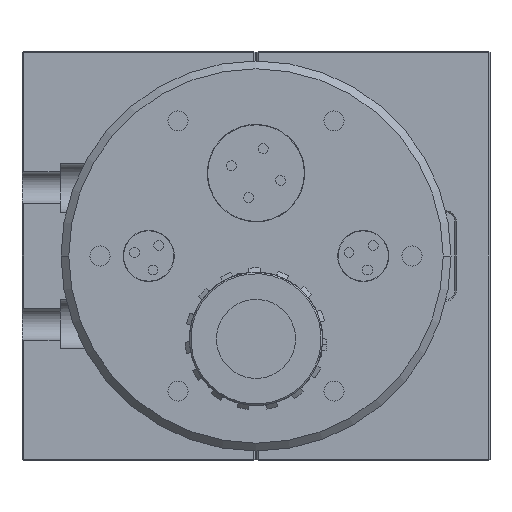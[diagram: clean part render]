
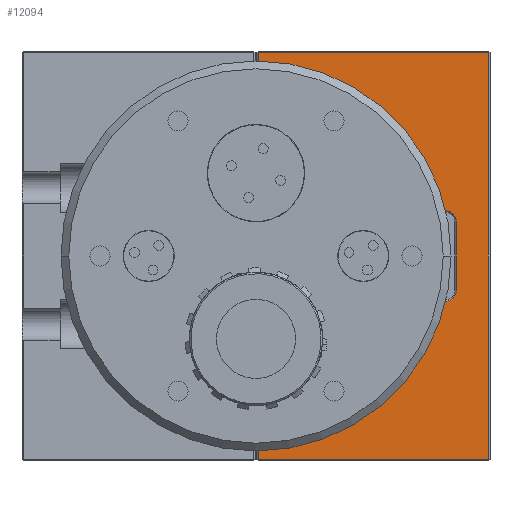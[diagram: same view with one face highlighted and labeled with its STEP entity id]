
A CAD part, front view. The second image highlights one B-rep face of the part: STEP entity #12094.
In plain terms, the highlighted planar face has unit normal (0, -1, 0).
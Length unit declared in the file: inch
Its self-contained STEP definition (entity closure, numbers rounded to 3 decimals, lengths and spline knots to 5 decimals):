
#523 = CARTESIAN_POINT ( 'NONE',  ( 0., -28.4916, 0.585 ) ) ;
#526 = DIRECTION ( 'NONE',  ( 1., 0., 0. ) ) ;
#528 = CARTESIAN_POINT ( 'NONE',  ( 2.422, -28.4916, 0.44 ) ) ;
#531 = DIRECTION ( 'NONE',  ( 0., 1., 0. ) ) ;
#532 = DIRECTION ( 'NONE',  ( -1., 0., 0. ) ) ;
#1441 = DIRECTION ( 'NONE',  ( -1., 0., 0. ) ) ;
#1451 = CARTESIAN_POINT ( 'NONE',  ( 0., -28.4916, 2.60498 ) ) ;
#1500 = CARTESIAN_POINT ( 'NONE',  ( 0.03, -28.4916, 0. ) ) ;
#1502 = DIRECTION ( 'NONE',  ( 0., 0., -1. ) ) ;
#1503 = CARTESIAN_POINT ( 'NONE',  ( 2.98, -28.4916, 0. ) ) ;
#1504 = CARTESIAN_POINT ( 'NONE',  ( 3., -28.4916, -2.60498 ) ) ;
#1505 = DIRECTION ( 'NONE',  ( 1., 0., 0. ) ) ;
#1510 = DIRECTION ( 'NONE',  ( 0., 0., 1. ) ) ;
#2501 = DIRECTION ( 'NONE',  ( -1., 0., 0. ) ) ;
#2506 = CARTESIAN_POINT ( 'NONE',  ( 0., -28.4916, -0.585 ) ) ;
#2516 = CARTESIAN_POINT ( 'NONE',  ( 0.03, -28.4916, -2.62498 ) ) ;
#2517 = DIRECTION ( 'NONE',  ( 0., 0., -1. ) ) ;
#2540 = CARTESIAN_POINT ( 'NONE',  ( 0., -28.4916, 0. ) ) ;
#2541 = DIRECTION ( 'NONE',  ( 0., 1., 0. ) ) ;
#2542 = DIRECTION ( 'NONE',  ( 1., 0., 0. ) ) ;
#2563 = DIRECTION ( 'NONE',  ( 0., 0., -1. ) ) ;
#2564 = CARTESIAN_POINT ( 'NONE',  ( 2.567, -28.4916, 0. ) ) ;
#2614 = CARTESIAN_POINT ( 'NONE',  ( 2.422, -28.4916, -0.44 ) ) ;
#2615 = DIRECTION ( 'NONE',  ( 0., 1., 0. ) ) ;
#2616 = DIRECTION ( 'NONE',  ( -1., 0., 0. ) ) ;
#2766 = VERTEX_POINT ( 'NONE', #23033 ) ;
#2809 = VERTEX_POINT ( 'NONE', #23158 ) ;
#3153 = VERTEX_POINT ( 'NONE', #23142 ) ;
#5953 = CIRCLE ( 'NONE', #38019, 2.4 ) ;
#12094 = ADVANCED_FACE ( 'NONE', ( #29649 ), #19335, .F. ) ;
#12340 = VERTEX_POINT ( 'NONE', #58259 ) ;
#12425 = VERTEX_POINT ( 'NONE', #58334 ) ;
#19335 = PLANE ( 'NONE',  #24926 ) ;
#19362 = CARTESIAN_POINT ( 'NONE',  ( 0., -28.4916, 0. ) ) ;
#19365 = DIRECTION ( 'NONE',  ( 0., 1., 0. ) ) ;
#19368 = DIRECTION ( 'NONE',  ( -1., 0., 0. ) ) ;
#20198 = EDGE_CURVE ( 'NONE', #2766, #24768, #26544, .T. ) ;
#20258 = EDGE_CURVE ( 'NONE', #24768, #12425, #26599, .T. ) ;
#20264 = EDGE_CURVE ( 'NONE', #2809, #25101, #26602, .T. ) ;
#20267 = EDGE_CURVE ( 'NONE', #25101, #2766, #26608, .T. ) ;
#20572 = EDGE_CURVE ( 'NONE', #25269, #25140, #26781, .T. ) ;
#20577 = EDGE_CURVE ( 'NONE', #24655, #2809, #26784, .T. ) ;
#20613 = EDGE_CURVE ( 'NONE', #25140, #24655, #26820, .T. ) ;
#20651 = EDGE_CURVE ( 'NONE', #3153, #24612, #26839, .T. ) ;
#20701 = EDGE_CURVE ( 'NONE', #24612, #25269, #26865, .T. ) ;
#20935 = EDGE_CURVE ( 'NONE', #25733, #3153, #26964, .T. ) ;
#20939 = EDGE_CURVE ( 'NONE', #12340, #25733, #26953, .T. ) ;
#22274 = CARTESIAN_POINT ( 'NONE',  ( 2.567, -28.4916, -0.44 ) ) ;
#22282 = CARTESIAN_POINT ( 'NONE',  ( 0.03, -28.4916, -2.39981 ) ) ;
#22319 = CARTESIAN_POINT ( 'NONE',  ( 0.03, -28.4916, 2.60498 ) ) ;
#22367 = CARTESIAN_POINT ( 'NONE',  ( 2.98, -28.4916, -2.60498 ) ) ;
#22375 = CARTESIAN_POINT ( 'NONE',  ( 2.32761, -28.4916, -0.585 ) ) ;
#22403 = CARTESIAN_POINT ( 'NONE',  ( 2.422, -28.4916, -0.585 ) ) ;
#22486 = CARTESIAN_POINT ( 'NONE',  ( 2.422, -28.4916, 0.585 ) ) ;
#23033 = CARTESIAN_POINT ( 'NONE',  ( 2.98, -28.4916, 2.60498 ) ) ;
#23142 = CARTESIAN_POINT ( 'NONE',  ( 2.567, -28.4916, 0.44 ) ) ;
#23158 = CARTESIAN_POINT ( 'NONE',  ( 0.03, -28.4916, -2.60498 ) ) ;
#24612 = VERTEX_POINT ( 'NONE', #22274 ) ;
#24655 = VERTEX_POINT ( 'NONE', #22282 ) ;
#24768 = VERTEX_POINT ( 'NONE', #22319 ) ;
#24926 = AXIS2_PLACEMENT_3D ( 'NONE', #19362, #19365, #19368 ) ;
#25101 = VERTEX_POINT ( 'NONE', #22367 ) ;
#25140 = VERTEX_POINT ( 'NONE', #22375 ) ;
#25269 = VERTEX_POINT ( 'NONE', #22403 ) ;
#25733 = VERTEX_POINT ( 'NONE', #22486 ) ;
#26158 = AXIS2_PLACEMENT_3D ( 'NONE', #2540, #2541, #2542 ) ;
#26164 = AXIS2_PLACEMENT_3D ( 'NONE', #2614, #2615, #2616 ) ;
#26185 = AXIS2_PLACEMENT_3D ( 'NONE', #528, #531, #532 ) ;
#26544 = LINE ( 'NONE', #1451, #26554 ) ;
#26554 = VECTOR ( 'NONE', #1441, 39.37008 ) ;
#26599 = LINE ( 'NONE', #1500, #26604 ) ;
#26602 = LINE ( 'NONE', #1504, #26610 ) ;
#26604 = VECTOR ( 'NONE', #1502, 39.37008 ) ;
#26608 = LINE ( 'NONE', #1503, #26614 ) ;
#26610 = VECTOR ( 'NONE', #1505, 39.37008 ) ;
#26614 = VECTOR ( 'NONE', #1510, 39.37008 ) ;
#26781 = LINE ( 'NONE', #2506, #26794 ) ;
#26784 = LINE ( 'NONE', #2516, #26797 ) ;
#26794 = VECTOR ( 'NONE', #2501, 39.37008 ) ;
#26797 = VECTOR ( 'NONE', #2517, 39.37008 ) ;
#26820 = CIRCLE ( 'NONE', #26158, 2.4 ) ;
#26835 = VECTOR ( 'NONE', #2563, 39.37008 ) ;
#26839 = LINE ( 'NONE', #2564, #26835 ) ;
#26865 = CIRCLE ( 'NONE', #26164, 0.145 ) ;
#26953 = LINE ( 'NONE', #523, #26970 ) ;
#26964 = CIRCLE ( 'NONE', #26185, 0.145 ) ;
#26970 = VECTOR ( 'NONE', #526, 39.37008 ) ;
#29649 = FACE_OUTER_BOUND ( 'NONE', #41296, .T. ) ;
#38019 = AXIS2_PLACEMENT_3D ( 'NONE', #59110, #59111, #59112 ) ;
#39974 = ORIENTED_EDGE ( 'NONE', *, *, #20577, .T. ) ;
#39976 = ORIENTED_EDGE ( 'NONE', *, *, #20613, .T. ) ;
#39979 = ORIENTED_EDGE ( 'NONE', *, *, #20572, .T. ) ;
#40315 = ORIENTED_EDGE ( 'NONE', *, *, #20651, .T. ) ;
#40318 = ORIENTED_EDGE ( 'NONE', *, *, #20935, .T. ) ;
#40329 = ORIENTED_EDGE ( 'NONE', *, *, #20701, .T. ) ;
#40752 = ORIENTED_EDGE ( 'NONE', *, *, #20939, .T. ) ;
#40753 = ORIENTED_EDGE ( 'NONE', *, *, #42147, .T. ) ;
#40754 = ORIENTED_EDGE ( 'NONE', *, *, #20258, .T. ) ;
#41296 = EDGE_LOOP ( 'NONE', ( #39979, #39976, #39974, #47591, #47590, #47589, #40754, #40753, #40752, #40318, #40315, #40329 ) ) ;
#42147 = EDGE_CURVE ( 'NONE', #12425, #12340, #5953, .T. ) ;
#47589 = ORIENTED_EDGE ( 'NONE', *, *, #20198, .T. ) ;
#47590 = ORIENTED_EDGE ( 'NONE', *, *, #20267, .T. ) ;
#47591 = ORIENTED_EDGE ( 'NONE', *, *, #20264, .T. ) ;
#58259 = CARTESIAN_POINT ( 'NONE',  ( 2.32761, -28.4916, 0.585 ) ) ;
#58334 = CARTESIAN_POINT ( 'NONE',  ( 0.03, -28.4916, 2.39981 ) ) ;
#59110 = CARTESIAN_POINT ( 'NONE',  ( 0., -28.4916, 0. ) ) ;
#59111 = DIRECTION ( 'NONE',  ( 0., 1., 0. ) ) ;
#59112 = DIRECTION ( 'NONE',  ( 1., 0., 0. ) ) ;
